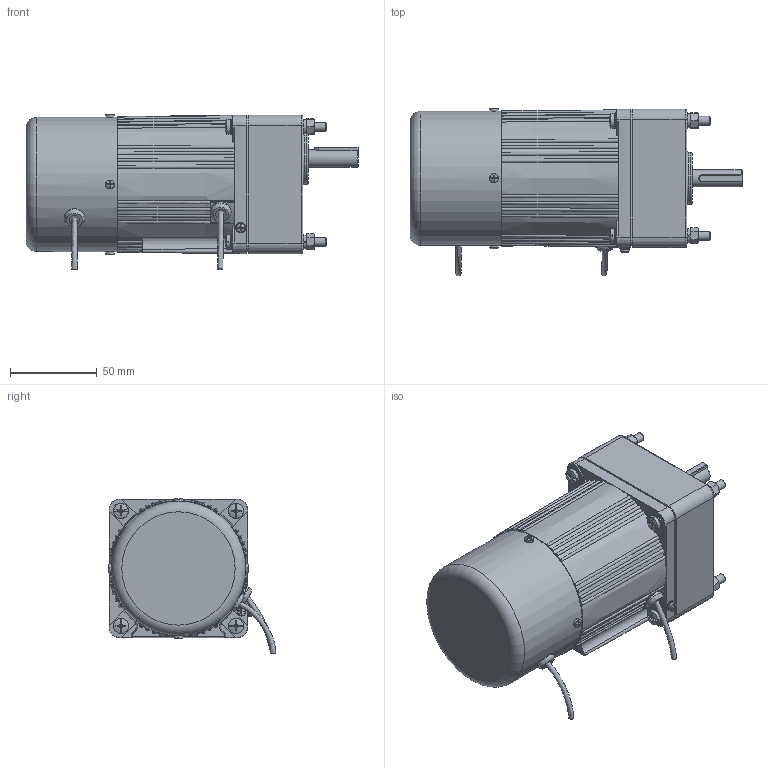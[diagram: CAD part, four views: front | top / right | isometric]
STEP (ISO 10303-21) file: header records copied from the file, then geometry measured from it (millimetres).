
FILE_DESCRIPTION(/* description */ (''),/* implementation_level */ '2;1');
FILE_NAME(/* name */ '4RK25-30CC·M-4GN3-20K-C·10T.stp',/* time_stamp */ '2024-11-02T13:04:23+08:00',/* author */ (''),/* organization */ (''),/* preprocessor_version */ 'ST-DEVELOPER v18.102',/* originating_system */ 'SIEMENS PLM Software NX 2027',/* authorisation */ '');
FILE_SCHEMA (('AP203_CONFIGURATION_CONTROLLED_3D_DESIGN_OF_MECHANICAL_PARTS_AND_ASSEMBLIES_MIM_LF { 1 0 10303 403 2 1 2}'));
Length unit declared in the file: millimetre
Products named in the file (1): 4RK25-30CC-4GN3-20K-C·10T_stp_YF80229CE281axms
Bounding box: 191.8 x 96.94 x 90.03 mm (x, y, z)
Volume: 839326.8 mm3; surface area: 93097.7 mm2
Topology: 24 solids, 24 shells, 1046 faces, 2650 edges, 1712 vertices
Faces by surface type: plane 362, bspline 321, cylinder 166, cone 126, torus 45, sphere 22, revolution 4
Full cylindrical faces by diameter (mm): 2.6 x1, 3 x1, 3.2 x1, 4 x1, 4.351 x4, 4.4 x1, 4.6 x4, 5 x5, 5.1 x5, 5.3 x8, 6 x13, 6.5 x4, 8 x2, 8.2 x1, 8.5 x4, 9 x8, 10 x1, 10.5 x1, 19 x1, 26 x1, 30 x1, 56 x1, 67 x1, 75 x2, 77.5 x1
Entity records: 38169 total; most frequent: CARTESIAN_POINT 16795, ORIENTED_EDGE 4908, DIRECTION 3103, EDGE_CURVE 2454, VERTEX_POINT 1654, B_SPLINE_CURVE_WITH_KNOTS 1371, AXIS2_PLACEMENT_3D 1301, EDGE_LOOP 1284
